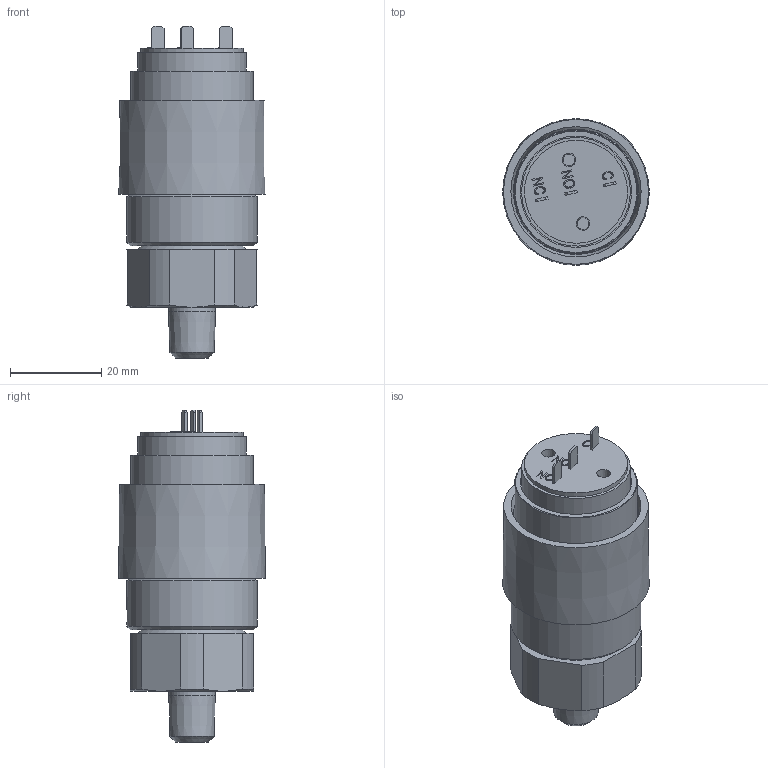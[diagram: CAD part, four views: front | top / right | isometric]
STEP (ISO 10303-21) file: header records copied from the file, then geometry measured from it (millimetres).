
FILE_DESCRIPTION (( 'STEP AP214' ), '1' );
FILE_NAME ('10-A10_A12.STEP', '2025-02-28T18:10:40', ( '' ), ( '' ), 'SwSTEP 2.0', 'SolidWorks 2023', '' );
FILE_SCHEMA (( 'AUTOMOTIVE_DESIGN' ));
Length unit declared in the file: inch
Products named in the file (1): 10-A10_A12
Bounding box: 32.11 x 32.11 x 72.73 mm (x, y, z)
Surface area: 10732.2 mm2 (no closed solid volume)
Topology: 0 solids, 13 shells, 105 faces, 325 edges, 227 vertices
Faces by surface type: plane 57, cone 19, cylinder 15, bspline 13, torus 1
Full cylindrical faces by diameter (mm): 3.175 x1, 3.556 x1, 10.287 x1, 22.581 x1, 23.812 x1, 24.384 x1, 26.873 x2, 28.575 x1
Entity records: 4820 total; most frequent: CARTESIAN_POINT 2185, ORIENTED_EDGE 477, DIRECTION 477, EDGE_CURVE 298, VERTEX_POINT 223, VECTOR 171, LINE 171, AXIS2_PLACEMENT_3D 153
